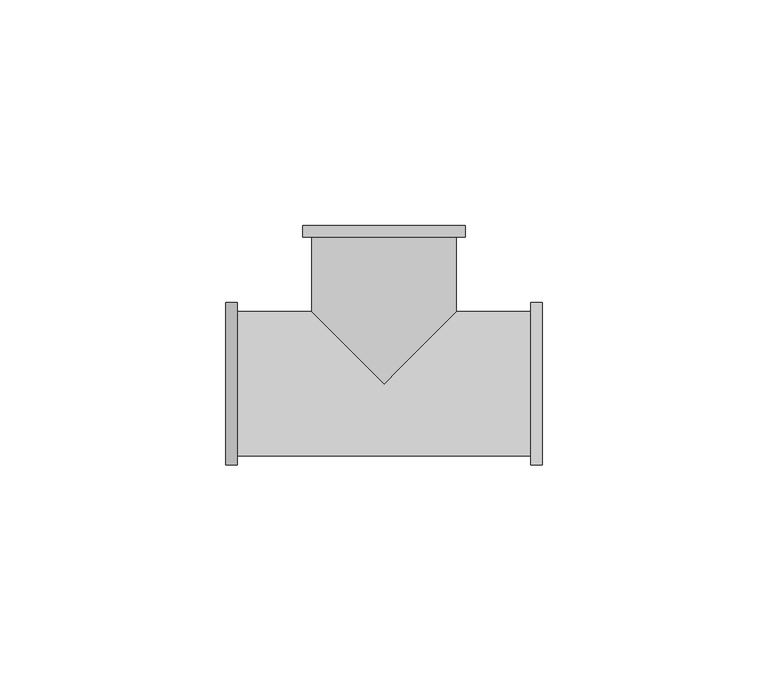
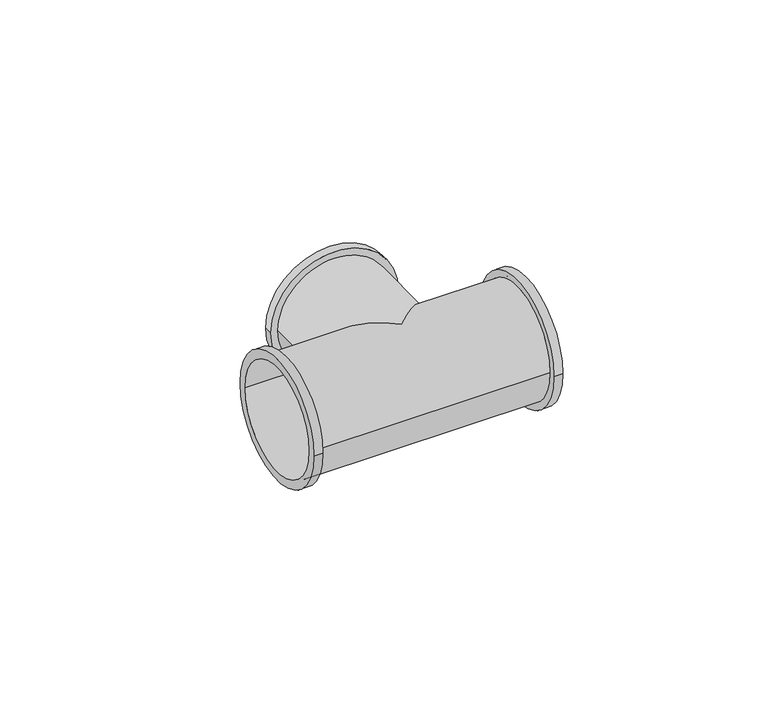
"""IFC4 building model written with IfcOpenShell, lengths in millimetres: pipe fitting geometry, БИР ПЕКС_КМП_Тройник ПЕКС : Тройник ПЕКС_КМП."""

from ifc_helpers import new_model, si_unit, frame, origin, place, context, project, spatial, polyline, circle_curve, ellipse_curve, source, transform, mapped, element, save
from ifc_brep_helpers import plane_surface, cylinder_surface, revolved_surface, advanced_brep


def pipe_fitting_fc14ec36(model_context):
    return source(origin(), model_context, "Body", "AdvancedBrep", [
        advanced_brep(
        [(-18.0, 35.0, 0.0), (18.0, 35.0, 0.0), (-15.5, 35.0, 0.0), (15.5, 35.0, 0.0), (16.0, 16.0, 0.0), (0.0, 0.0, -16.0), (-16.0, 16.0, 0.0), (-16.0, 32.5, 0.0), (16.0, 32.5, 0.0), (0.0, 0.0, 16.0), (35.0, -18.0, 0.0), (35.0, 18.0, 0.0), (35.0, 15.5, 0.0), (35.0, -15.5, 0.0), (-35.0, -18.0, 0.0), (-35.0, 18.0, 0.0), (-35.0, -15.5, 0.0), (-35.0, 15.5, 0.0), (32.5, 16.0, 0.0), (32.5, -16.0, 0.0), (-32.5, -16.0, 0.0), (-32.5, 16.0, 0.0), (-18.0, 32.5, 0.0), (18.0, 32.5, 0.0), (-32.5, -18.0, 0.0), (-32.5, 18.0, 0.0), (32.5, -18.0, 0.0), (32.5, 18.0, 0.0), (-15.5, 15.5, 0.0), (0.0, 0.0, -15.5), (15.5, 15.5, 0.0), (0.0, 0.0, 15.5)],
        [
            (0, 1, circle_curve(frame((0.0, 35.0, 0.0), z_axis=(0.0, 1.0, 0.0), x_axis=(1.0, 0.0, 0.0)), 18.0)),
            (1, 0, circle_curve(frame((0.0, 35.0, 0.0), z_axis=(0.0, 1.0, 0.0), x_axis=(1.0, 0.0, 0.0)), 18.0)),
            (2, 3, circle_curve(frame((0.0, 35.0, 0.0), z_axis=(0.0, -1.0, 0.0), x_axis=(1.0, 0.0, 0.0)), 15.5)),
            (3, 2, circle_curve(frame((0.0, 35.0, 0.0), z_axis=(0.0, -1.0, 0.0), x_axis=(1.0, 0.0, 0.0)), 15.5)),
            (4, 5, ellipse_curve(frame((0.0, 0.0, 0.0), z_axis=(-0.7071067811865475, 0.7071067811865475, 0.0), x_axis=(-0.7071067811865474, -0.7071067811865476, 0.0)), 22.627417, 16.0)),
            (5, 6, ellipse_curve(frame((0.0, 0.0, 0.0), z_axis=(0.7071067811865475, 0.7071067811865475, 0.0), x_axis=(0.7071067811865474, -0.7071067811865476, 0.0)), 22.627417, 16.0)),
            (6, 7),
            (7, 8, circle_curve(frame((0.0, 32.5, 0.0), z_axis=(0.0, -1.0, 0.0), x_axis=(1.0, 0.0, 0.0)), 16.0)),
            (8, 4),
            (9, 4, ellipse_curve(frame((0.0, 0.0, 0.0), z_axis=(-0.7071067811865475, 0.7071067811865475, 0.0), x_axis=(-0.7071067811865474, -0.7071067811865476, 0.0)), 22.627417, 16.0)),
            (8, 7, circle_curve(frame((0.0, 32.5, 0.0), z_axis=(0.0, -1.0, 0.0), x_axis=(1.0, 0.0, 0.0)), 16.0)),
            (6, 9, ellipse_curve(frame((0.0, 0.0, 0.0), z_axis=(0.7071067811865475, 0.7071067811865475, 0.0), x_axis=(0.7071067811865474, -0.7071067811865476, 0.0)), 22.627417, 16.0)),
            (10, 11, circle_curve(frame((35.0, 0.0, 0.0), z_axis=(1.0, 0.0, 0.0), x_axis=(0.0, 1.0, 0.0)), 18.0)),
            (11, 10, circle_curve(frame((35.0, 0.0, 0.0), z_axis=(1.0, 0.0, 0.0), x_axis=(0.0, 1.0, 0.0)), 18.0)),
            (12, 13, circle_curve(frame((35.0, 0.0, 0.0), z_axis=(-1.0, 0.0, 0.0), x_axis=(0.0, 1.0, 0.0)), 15.5)),
            (13, 12, circle_curve(frame((35.0, 0.0, 0.0), z_axis=(-1.0, 0.0, 0.0), x_axis=(0.0, 1.0, 0.0)), 15.5)),
            (14, 15, circle_curve(frame((-35.0, 0.0, 0.0), z_axis=(-1.0, 0.0, 0.0), x_axis=(0.0, 1.0, 0.0)), 18.0)),
            (15, 14, circle_curve(frame((-35.0, 0.0, 0.0), z_axis=(-1.0, 0.0, 0.0), x_axis=(0.0, 1.0, 0.0)), 18.0)),
            (16, 17, circle_curve(frame((-35.0, 0.0, 0.0), z_axis=(1.0, 0.0, 0.0), x_axis=(0.0, 1.0, 0.0)), 15.5)),
            (17, 16, circle_curve(frame((-35.0, 0.0, 0.0), z_axis=(1.0, 0.0, 0.0), x_axis=(0.0, 1.0, 0.0)), 15.5)),
            (4, 18),
            (18, 19, circle_curve(frame((32.5, 0.0, 0.0), z_axis=(-1.0, 0.0, 0.0), x_axis=(0.0, 1.0, 0.0)), 16.0)),
            (19, 20),
            (20, 21, circle_curve(frame((-32.5, 0.0, 0.0), z_axis=(1.0, 0.0, 0.0), x_axis=(0.0, 1.0, 0.0)), 16.0)),
            (21, 6),
            (21, 20, circle_curve(frame((-32.5, 0.0, 0.0), z_axis=(1.0, 0.0, 0.0), x_axis=(0.0, 1.0, 0.0)), 16.0)),
            (19, 18, circle_curve(frame((32.5, 0.0, 0.0), z_axis=(-1.0, 0.0, 0.0), x_axis=(0.0, 1.0, 0.0)), 16.0)),
            (22, 23, circle_curve(frame((0.0, 32.5, 0.0), z_axis=(0.0, -1.0, 0.0), x_axis=(1.0, 0.0, 0.0)), 18.0)),
            (23, 22, circle_curve(frame((0.0, 32.5, 0.0), z_axis=(0.0, -1.0, 0.0), x_axis=(1.0, 0.0, 0.0)), 18.0)),
            (22, 0),
            (1, 23),
            (24, 25, circle_curve(frame((-32.5, 0.0, 0.0), z_axis=(1.0, 0.0, 0.0), x_axis=(0.0, 1.0, 0.0)), 18.0)),
            (25, 24, circle_curve(frame((-32.5, 0.0, 0.0), z_axis=(1.0, 0.0, 0.0), x_axis=(0.0, 1.0, 0.0)), 18.0)),
            (15, 25),
            (24, 14),
            (26, 27, circle_curve(frame((32.5, 0.0, 0.0), z_axis=(-1.0, 0.0, 0.0), x_axis=(0.0, 1.0, 0.0)), 18.0)),
            (27, 26, circle_curve(frame((32.5, 0.0, 0.0), z_axis=(-1.0, 0.0, 0.0), x_axis=(0.0, 1.0, 0.0)), 18.0)),
            (10, 26),
            (27, 11),
            (2, 28),
            (28, 29, ellipse_curve(frame((0.0, 0.0, 0.0), z_axis=(-0.7071067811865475, -0.7071067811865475, 0.0), x_axis=(0.7071067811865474, -0.7071067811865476, 0.0)), 21.9203102, 15.5)),
            (29, 30, ellipse_curve(frame((0.0, 0.0, 0.0), z_axis=(0.7071067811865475, -0.7071067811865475, 0.0), x_axis=(-0.7071067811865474, -0.7071067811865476, 0.0)), 21.9203102, 15.5)),
            (30, 3),
            (30, 31, ellipse_curve(frame((0.0, 0.0, 0.0), z_axis=(0.7071067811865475, -0.7071067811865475, 0.0), x_axis=(-0.7071067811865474, -0.7071067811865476, 0.0)), 21.9203102, 15.5)),
            (31, 28, ellipse_curve(frame((0.0, 0.0, 0.0), z_axis=(-0.7071067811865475, -0.7071067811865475, 0.0), x_axis=(0.7071067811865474, -0.7071067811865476, 0.0)), 21.9203102, 15.5)),
            (16, 13),
            (12, 30),
            (28, 17),
        ],
        [
            plane_surface(frame((16.0, 35.0, 0.0), z_axis=(0.0, 1.0, 0.0), x_axis=(0.0, 0.0, -1.0))),
            cylinder_surface(frame((0.0, 35.0, 0.0), z_axis=(0.0, -1.0, 0.0), x_axis=(1.0, 0.0, 0.0)), 16.0),
            plane_surface(frame((35.0, 16.0, 0.0), z_axis=(1.0, 0.0, 0.0), x_axis=(0.0, 0.0, 1.0))),
            plane_surface(frame((-35.0, 16.0, 0.0), z_axis=(-1.0, 0.0, 0.0), x_axis=(0.0, 0.0, -1.0))),
            cylinder_surface(frame((-35.0, 0.0, 0.0), z_axis=(1.0, 0.0, 0.0), x_axis=(0.0, 1.0, 0.0)), 16.0),
            plane_surface(frame((18.0, 32.5, 0.0), z_axis=(0.0, -1.0, 0.0), x_axis=(0.0, 0.0, 1.0))),
            cylinder_surface(frame((0.0, 35.0, 0.0), z_axis=(0.0, -1.0, 0.0), x_axis=(1.0, 0.0, 0.0)), 18.0),
            plane_surface(frame((-32.5, 18.0, 0.0), z_axis=(1.0, 0.0, 0.0), x_axis=(0.0, 0.0, 1.0))),
            cylinder_surface(frame((-32.5, 0.0, 0.0), z_axis=(-1.0, 0.0, 0.0), x_axis=(0.0, 1.0, 0.0)), 18.0),
            plane_surface(frame((32.5, 18.0, 0.0), z_axis=(-1.0, 0.0, 0.0), x_axis=(0.0, 0.0, -1.0))),
            cylinder_surface(frame((32.5, 0.0, 0.0), z_axis=(1.0, 0.0, 0.0), x_axis=(0.0, 1.0, 0.0)), 18.0),
            revolved_surface(polyline([(15.5, -15.499999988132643, 0.0), (15.5, 35.0, 0.0)]), (0.0, 35.0, 0.0), (0.0, -1.0, 0.0)),
            revolved_surface(polyline([(35.0, 15.5, 0.0), (-35.0, 15.5, 0.0)]), (-35.0, 0.0, 0.0), (1.0, 0.0, 0.0)),
        ],
        [
            (0, [[1, 2], [3, 4]]),
            (1, [[5, 6, 7, 8, 9]]),
            (1, [[10, -9, 11, -7, 12]]),
            (2, [[13, 14], [15, 16]]),
            (3, [[17, 18], [19, 20]]),
            (4, [[-5, 21, 22, 23, 24, 25, -6]]),
            (4, [[-10, -12, -25, 26, -23, 27, -21]]),
            (5, [[28, 29], [-8, -11]]),
            (6, [[-28, 30, -2, 31]]),
            (6, [[-29, -31, -1, -30]]),
            (7, [[32, 33], [-24, -26]]),
            (8, [[-18, 34, -32, 35]]),
            (8, [[-17, -35, -33, -34]]),
            (9, [[36, 37], [-22, -27]]),
            (10, [[-13, 38, -37, 39]]),
            (10, [[-14, -39, -36, -38]]),
            (11, [[-3, 40, 41, 42, 43]]),
            (11, [[-4, -43, 44, 45, -40]]),
            (12, [[46, -15, 47, -42, -41, 48, -19]]),
            (12, [[-46, -20, -48, -45, -44, -47, -16]]),
        ],
    ),
    ])


if __name__ == "__main__":
    model = new_model("IFC4")
    model_context = context("Model", 3, world=origin())
    ifc_project = project(units=[si_unit("LENGTHUNIT", "METRE", prefix="MILLI")], contexts=[model_context])
    site = spatial("IfcSite", under=ifc_project)
    building = spatial("IfcBuilding", under=site)
    placement = place(None, origin())
    pipe_fitting_shape = pipe_fitting_fc14ec36(model_context)
    element("IfcPipeFitting", 1, ObjectType="БИР ПЕКС_КМП_Тройник ПЕКС : Тройник ПЕКС_КМП", at=placement, inside=building, context=model_context, shape_type="MappedRepresentation", body=[
        mapped(pipe_fitting_shape, transform((0.0, 0.0, 0.0), x_axis=(1.0, 0.0, 0.0), y_axis=(0.0, 1.0, 0.0), z_axis=(0.0, 0.0, 1.0))),
    ])
    save(model, "model.ifc")
